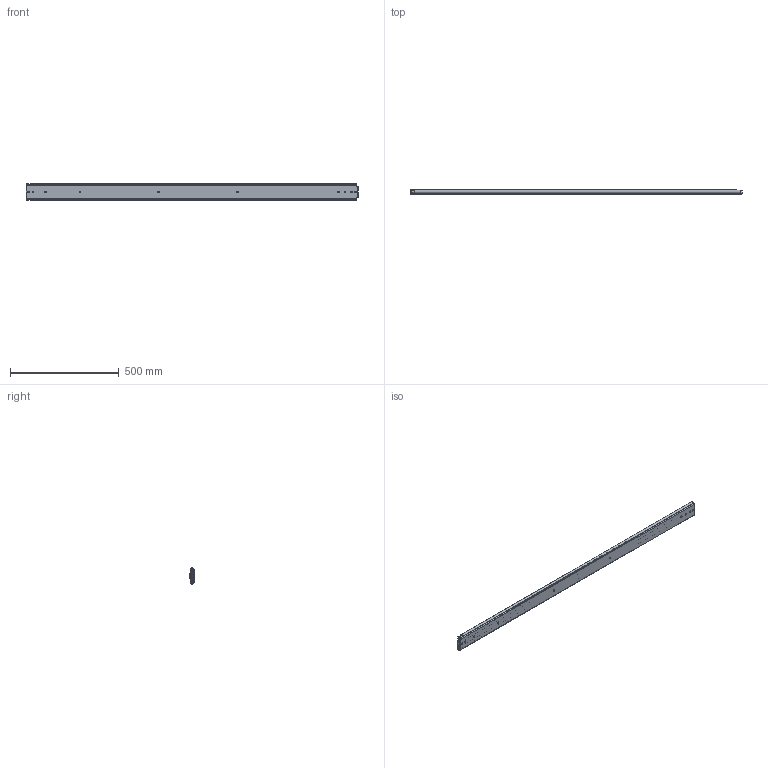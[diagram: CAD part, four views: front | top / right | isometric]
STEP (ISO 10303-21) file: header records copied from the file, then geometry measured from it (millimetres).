
FILE_DESCRIPTION((''),'2;1');
FILE_NAME('DG-76-02-60_ASM','2023-05-15T',('jishu015'),(''),'PRO/ENGINEER BY PARAMETRIC TECHNOLOGY CORPORATION, 2010280','PRO/ENGINEER BY PARAMETRIC TECHNOLOGY CORPORATION, 2010280','');
FILE_SCHEMA(('CONFIG_CONTROL_DESIGN'));
Products named in the file (18): KP-76-04WAIKE3__; 1076-WAIKEZIDANJIAO3__; WAIK72___ASM; 1076XIAOZHUTIAO1__; 163__; 1076XIAOZHUTIAO1___ASM; KP-76-04ZHONGGUI3__; 76CHANGGUIZHONGGUIJIAO3__; 3X6WODIN3__; PJ-76-33__; 76-XIAOZHUJIA3__; GANGZHU-XIAO3__; ZHUJIA-XIAO3___ASM; ZHONGGUI3___ASM; KP-76-04NEIGUI3__; XIN-TANPIAN__; NEIGUI3___ASM; DG-76-02-60_ASM
Assembly tree (104 placements, depth 4):
  DG-76-02-60_ASM
    WAIK72___ASM
      KP-76-04WAIKE3__
      1076-WAIKEZIDANJIAO3__  x2
    1076XIAOZHUTIAO1___ASM  x2
      1076XIAOZHUTIAO1__
      163__
    ZHONGGUI3___ASM
      KP-76-04ZHONGGUI3__
      76CHANGGUIZHONGGUIJIAO3__
      3X6WODIN3__
      PJ-76-33__
      ZHUJIA-XIAO3___ASM
        76-XIAOZHUJIA3__
        GANGZHU-XIAO3__  x58
    NEIGUI3___ASM
      KP-76-04NEIGUI3__
      XIN-TANPIAN__
Bounding box: 1524 x 19.5 x 75.3 mm (x, y, z)
Volume: 1000054.3 mm3; surface area: 959515.1 mm2
Topology: 128 solids, 128 shells, 2568 faces, 8134 edges, 5099 vertices
Faces by surface type: plane 1391, cylinder 834, sphere 234, extrusion 87, cone 18, bspline 4
Entity records: 76279 total; most frequent: CARTESIAN_POINT 18217, ORIENTED_EDGE 12996, DIRECTION 11171, EDGE_CURVE 6498, VERTEX_POINT 4243, AXIS2_PLACEMENT_3D 3777, VECTOR 3617, LINE 3530
